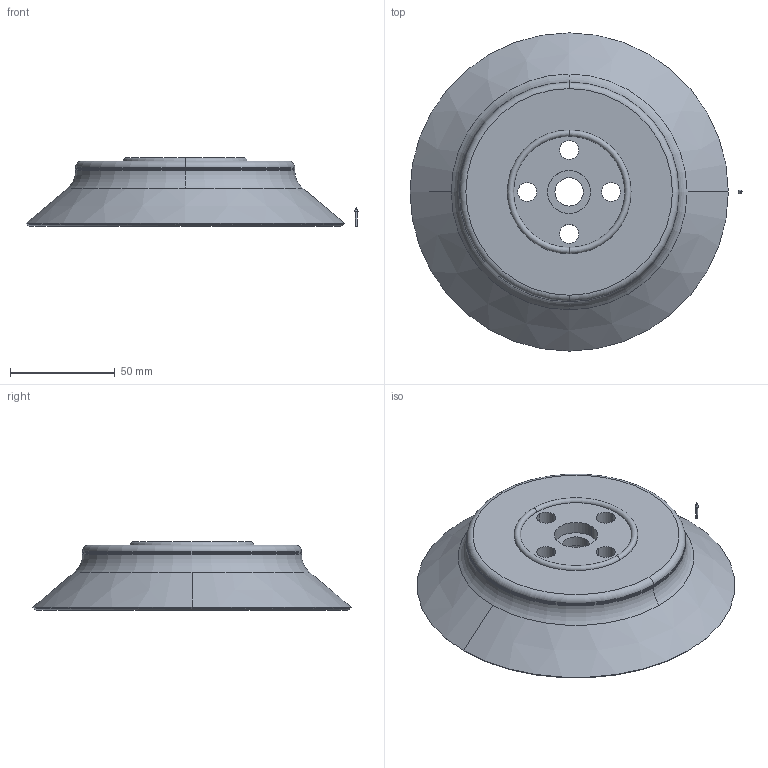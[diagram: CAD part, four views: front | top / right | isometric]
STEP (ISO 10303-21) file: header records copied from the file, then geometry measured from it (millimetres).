
FILE_DESCRIPTION(('STEP AP214'),'1');
FILE_NAME('10_01_01_00333.stp','2020-10-24T00:20:46',('TraceParts'),('TraceParts S.A.'),'Spatial InterOp 3D',' ',' ');
FILE_SCHEMA(('AUTOMOTIVE_DESIGN { 1 0 10303 214 1 1 1 1 }'));
Length unit declared in the file: millimetre
Products named in the file (1): 10_01_01_00333_1
Bounding box: 158.26 x 151.73 x 32.5 mm (x, y, z)
Volume: 215862.3 mm3; surface area: 48317 mm2
Topology: 2 solids, 2 shells, 72 faces, 173 edges, 112 vertices
Faces by surface type: cylinder 32, torus 18, plane 12, cone 10
Entity records: 2772 total; most frequent: DIRECTION 448, CARTESIAN_POINT 357, ORIENTED_EDGE 342, AXIS2_PLACEMENT_3D 203, EDGE_CURVE 171, CIRCLE 129, VERTEX_POINT 112, EDGE_LOOP 91
